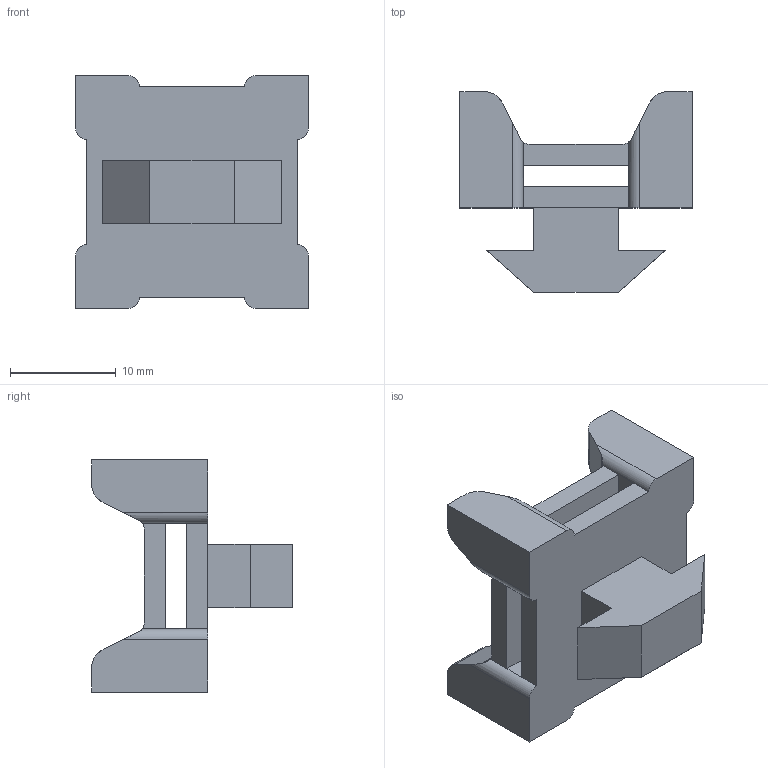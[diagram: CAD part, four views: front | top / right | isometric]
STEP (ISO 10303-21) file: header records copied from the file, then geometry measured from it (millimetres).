
FILE_DESCRIPTION (( 'STEP AP214' ), '1' );
FILE_NAME ('6.04.spcb.STEP', '2015-06-08T09:30:05', ( '' ), ( '' ), 'SwSTEP 2.0', 'SolidWorks 2015', '' );
FILE_SCHEMA (( 'AUTOMOTIVE_DESIGN' ));
Length unit declared in the file: millimetre
Products named in the file (1): 6.04.spcb
Bounding box: 22 x 19 x 22 mm (x, y, z)
Volume: 3002.4 mm3; surface area: 2670.1 mm2
Topology: 1 solids, 1 shells, 73 faces, 204 edges, 128 vertices
Faces by surface type: plane 49, cylinder 24
Entity records: 2360 total; most frequent: CARTESIAN_POINT 494, ORIENTED_EDGE 408, DIRECTION 352, EDGE_CURVE 204, LINE 156, VECTOR 156, VERTEX_POINT 128, AXIS2_PLACEMENT_3D 98
